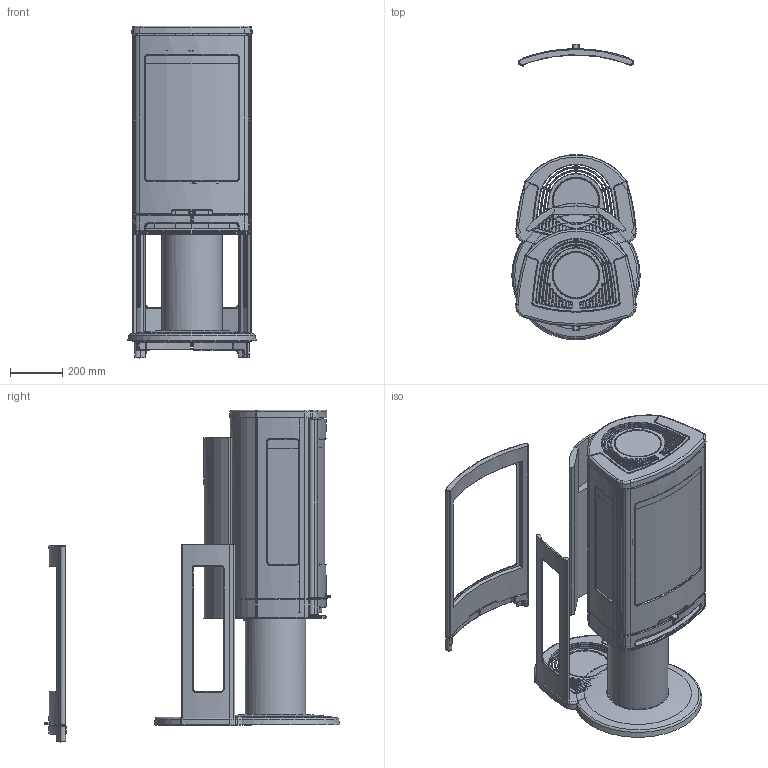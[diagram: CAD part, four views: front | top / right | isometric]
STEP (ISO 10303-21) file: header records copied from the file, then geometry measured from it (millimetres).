
FILE_DESCRIPTION( ( 'Unknown' ), '1' );
FILE_NAME( 'C:/Users/HAnilsd/AppData/Roaming/Unigraphics Solutions/Solid Edge/Insight/insight/insight/interior models/C780 Assembly.stp', 'Unknown', ( 'Unknown' ), ( 'Unknown' ), 'PSStep 13.0', 'Unknown', ' ' );
FILE_SCHEMA( ( 'AUTOMOTIVE_DESIGN { 1 0 10303 214 1 1 1 1 }' ) );
Length unit declared in the file: millimetre
Products named in the file (23): Assem1; Door C700; Top C700; Stove body C700; Glass C700; Fire C700; Vermiculite C700; Back C780; Side left C780; Side right C780; Pedestal C780
Bounding box: 489.86 x 1127.14 x 1265.5 mm (x, y, z)
Volume: 218279940.6 mm3; surface area: 13739246.6 mm2
Topology: 44 solids, 44 shells, 2544 faces, 6360 edges, 3852 vertices
Faces by surface type: plane 768, bspline 538, cylinder 420, torus 382, cone 316, sphere 66, extrusion 52, revolution 2
Full cylindrical faces by diameter (mm): 5 x12, 10.1 x4, 15 x2, 65 x2, 150 x4, 160 x2, 168 x4, 204 x2, 208 x2, 229.86 x2
Entity records: 84876 total; most frequent: CARTESIAN_POINT 45982, ORIENTED_EDGE 6196, DIRECTION 5581, EDGE_CURVE 3098, AXIS2_PLACEMENT_3D 2163, VERTEX_POINT 1909, EDGE_LOOP 1409, FACE_OUTER_BOUND 1299
